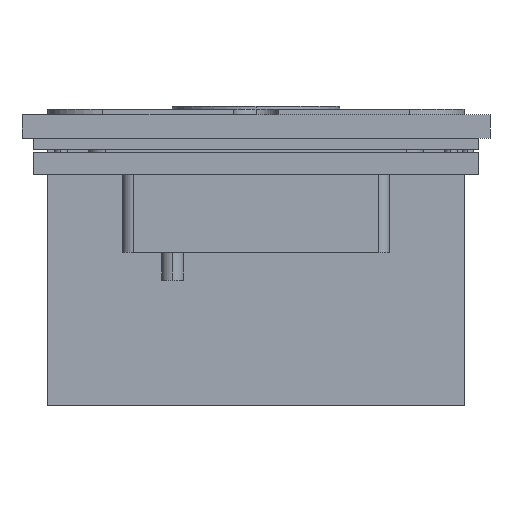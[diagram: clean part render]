
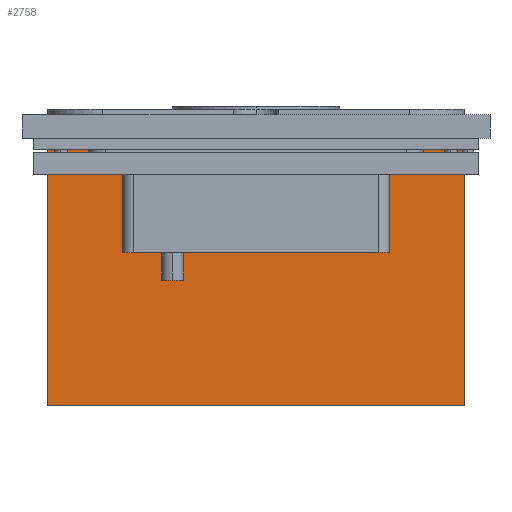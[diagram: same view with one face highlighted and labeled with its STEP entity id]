
A CAD part, left-side view. The second image highlights one B-rep face of the part: STEP entity #2758.
In plain terms, the highlighted planar face has unit normal (-1, 0, 0).
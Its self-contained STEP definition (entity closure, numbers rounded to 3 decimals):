
#83 = LINE ( 'NONE', #2249, #1627 ) ;
#293 = VECTOR ( 'NONE', #1047, 1000. ) ;
#332 = ORIENTED_EDGE ( 'NONE', *, *, #2894, .F. ) ;
#407 = CARTESIAN_POINT ( 'NONE',  ( 171.399, 37.5, 0. ) ) ;
#657 = LINE ( 'NONE', #3330, #2851 ) ;
#780 = AXIS2_PLACEMENT_3D ( 'NONE', #1068, #4817, #2948 ) ;
#1047 = DIRECTION ( 'NONE',  ( 0., 1., 0. ) ) ;
#1068 = CARTESIAN_POINT ( 'NONE',  ( 171.399, -37.5, -48. ) ) ;
#1198 = VECTOR ( 'NONE', #2836, 1000. ) ;
#1389 = CARTESIAN_POINT ( 'NONE',  ( 171.399, 37.5, -48. ) ) ;
#1468 = DIRECTION ( 'NONE',  ( 0., 0., 1. ) ) ;
#1537 = ORIENTED_EDGE ( 'NONE', *, *, #2158, .T. ) ;
#1627 = VECTOR ( 'NONE', #3402, 1000. ) ;
#1713 = LINE ( 'NONE', #4268, #1198 ) ;
#2158 = EDGE_CURVE ( 'NONE', #2644, #4243, #1713, .T. ) ;
#2249 = CARTESIAN_POINT ( 'NONE',  ( 171.399, -37.5, -48. ) ) ;
#2359 = EDGE_CURVE ( 'NONE', #2365, #4137, #657, .T. ) ;
#2365 = VERTEX_POINT ( 'NONE', #1389 ) ;
#2486 = LINE ( 'NONE', #3273, #293 ) ;
#2643 = EDGE_LOOP ( 'NONE', ( #3975, #3400, #332, #1537 ) ) ;
#2644 = VERTEX_POINT ( 'NONE', #3986 ) ;
#2758 = ADVANCED_FACE ( 'NONE', ( #2976 ), #3325, .F. ) ;
#2836 = DIRECTION ( 'NONE',  ( 0., 0., 1. ) ) ;
#2851 = VECTOR ( 'NONE', #1468, 1000. ) ;
#2894 = EDGE_CURVE ( 'NONE', #2644, #2365, #83, .T. ) ;
#2948 = DIRECTION ( 'NONE',  ( 0., 0., -1. ) ) ;
#2976 = FACE_OUTER_BOUND ( 'NONE', #2643, .T. ) ;
#3273 = CARTESIAN_POINT ( 'NONE',  ( 171.399, -37.5, 0. ) ) ;
#3325 = PLANE ( 'NONE',  #780 ) ;
#3330 = CARTESIAN_POINT ( 'NONE',  ( 171.399, 37.5, -48. ) ) ;
#3400 = ORIENTED_EDGE ( 'NONE', *, *, #2359, .F. ) ;
#3402 = DIRECTION ( 'NONE',  ( 0., 1., 0. ) ) ;
#3707 = EDGE_CURVE ( 'NONE', #4243, #4137, #2486, .T. ) ;
#3975 = ORIENTED_EDGE ( 'NONE', *, *, #3707, .T. ) ;
#3986 = CARTESIAN_POINT ( 'NONE',  ( 171.399, -37.5, -48. ) ) ;
#4137 = VERTEX_POINT ( 'NONE', #407 ) ;
#4243 = VERTEX_POINT ( 'NONE', #4666 ) ;
#4268 = CARTESIAN_POINT ( 'NONE',  ( 171.399, -37.5, -48. ) ) ;
#4666 = CARTESIAN_POINT ( 'NONE',  ( 171.399, -37.5, 0. ) ) ;
#4817 = DIRECTION ( 'NONE',  ( 1., 0., 0. ) ) ;
